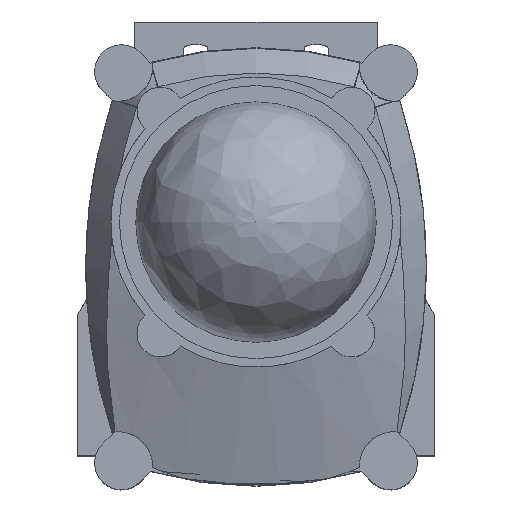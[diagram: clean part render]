
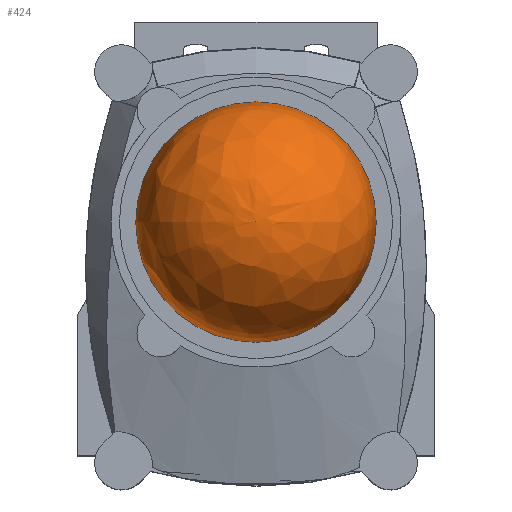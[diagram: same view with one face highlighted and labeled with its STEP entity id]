
A CAD part, top view. The second image highlights one B-rep face of the part: STEP entity #424.
In plain terms, the highlighted free-form (B-spline) face has degree [2, 2] with [3, 9] control points.
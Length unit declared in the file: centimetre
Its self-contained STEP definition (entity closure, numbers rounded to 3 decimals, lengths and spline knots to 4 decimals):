
#324=CARTESIAN_POINT('',(0.,4.0349,4.105));
#325=VERTEX_POINT('',#324);
#326=CARTESIAN_POINT('',(0.,2.8549,4.105));
#327=DIRECTION('',(0.0,0.0,-1.0));
#328=DIRECTION('',(0.0,-1.0,0.0));
#329=AXIS2_PLACEMENT_3D('',#326,#327,#328);
#330=CIRCLE('',#329,1.18);
#331=EDGE_CURVE('',#325,#325,#330,.T.);
#386=CARTESIAN_POINT('',(-1.18,2.8549,4.105));
#387=CARTESIAN_POINT('',(-1.18,2.8549,5.285));
#388=CARTESIAN_POINT('',(0.,2.8549,5.285));
#389=CARTESIAN_POINT('',(-1.18,4.0349,4.105));
#390=CARTESIAN_POINT('',(-1.18,4.0349,5.285));
#391=CARTESIAN_POINT('',(0.,2.8549,5.285));
#392=CARTESIAN_POINT('',(0.,4.0349,4.105));
#393=CARTESIAN_POINT('',(0.,4.0349,5.285));
#394=CARTESIAN_POINT('',(0.,2.8549,5.285));
#395=CARTESIAN_POINT('',(1.18,4.0349,4.105));
#396=CARTESIAN_POINT('',(1.18,4.0349,5.285));
#397=CARTESIAN_POINT('',(0.,2.8549,5.285));
#398=CARTESIAN_POINT('',(1.18,2.8549,4.105));
#399=CARTESIAN_POINT('',(1.18,2.8549,5.285));
#400=CARTESIAN_POINT('',(0.,2.8549,5.285));
#401=CARTESIAN_POINT('',(1.18,1.6749,4.105));
#402=CARTESIAN_POINT('',(1.18,1.6749,5.285));
#403=CARTESIAN_POINT('',(0.,2.8549,5.285));
#404=CARTESIAN_POINT('',(0.,1.6749,4.105));
#405=CARTESIAN_POINT('',(0.,1.6749,5.285));
#406=CARTESIAN_POINT('',(0.,2.8549,5.285));
#407=CARTESIAN_POINT('',(-1.18,1.6749,4.105));
#408=CARTESIAN_POINT('',(-1.18,1.6749,5.285));
#409=CARTESIAN_POINT('',(0.,2.8549,5.285));
#410=CARTESIAN_POINT('',(-1.18,2.8549,4.105));
#411=CARTESIAN_POINT('',(-1.18,2.8549,5.285));
#412=CARTESIAN_POINT('',(0.,2.8549,5.285));
#420=(BOUNDED_SURFACE()B_SPLINE_SURFACE(2,2,((#386,#389,#392,#395,#398,#401,#404,#407,#410),(#387,#390,#393,#396,#399,#402,#405,#408,#411),(#388,#391,#394,#397,#400,#403,#406,#409,#412)),.UNSPECIFIED.,.F.,.T.,.U.)B_SPLINE_SURFACE_WITH_KNOTS((3,3),(3,2,2,2,3),(0.0,1.5708),(0.0,1.5708,3.1416,4.7124,6.2832),.UNSPECIFIED.)GEOMETRIC_REPRESENTATION_ITEM()RATIONAL_B_SPLINE_SURFACE(((1.0,0.707,1.0,0.707,1.0,0.707,1.0,0.707,1.0),(0.707,0.5,0.707,0.5,0.707,0.5,0.707,0.5,0.707),(1.0,0.707,1.0,0.707,1.0,0.707,1.0,0.707,1.0)))REPRESENTATION_ITEM('')SURFACE());
#421=ORIENTED_EDGE('',*,*,#331,.F.);
#422=EDGE_LOOP('',(#421));
#423=FACE_OUTER_BOUND('',#422,.T.);
#424=ADVANCED_FACE('',(#423),#420,.T.);
